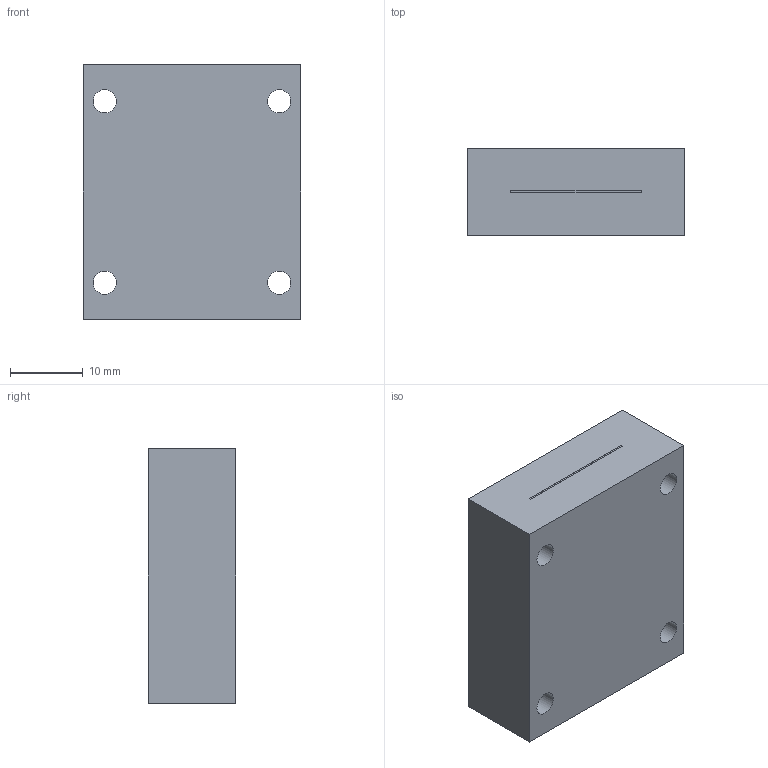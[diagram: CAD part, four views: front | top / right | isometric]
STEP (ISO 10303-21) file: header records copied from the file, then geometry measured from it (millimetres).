
FILE_DESCRIPTION(/* description */ ('LWL Typ-Q3-(18x0.3)'),/* implementation_level */ '2;1');
FILE_NAME(/* name */ 'T:\E-Mail-Zeichnungen\STEP\HOMEPAGE\LWL_Typ-Q3_18x0.3.stp',/* time_stamp */ '2015-04-20T12:36:44+02:00',/* author */ ('simone.schrank'),/* organization */ (''),/* preprocessor_version */ 'ST-DEVELOPER v15.6',/* originating_system */ 'Autodesk Inventor 2015',/* authorisation */ '');
FILE_SCHEMA (('AUTOMOTIVE_DESIGN { 1 0 10303 214 3 1 1 }'));
Length unit declared in the file: millimetre
Products named in the file (1): LWL_Typ-Q3_18x0.3
Bounding box: 30 x 12 x 35 mm (x, y, z)
Volume: 12210.5 mm3; surface area: 4080.6 mm2
Topology: 1 solids, 1 shells, 17 faces, 43 edges, 30 vertices
Faces by surface type: plane 12, cylinder 5
Full cylindrical faces by diameter (mm): 3.2 x4, 6.6 x1
Entity records: 517 total; most frequent: DIRECTION 80, CARTESIAN_POINT 78, ORIENTED_EDGE 68, EDGE_CURVE 34, EDGE_LOOP 32, AXIS2_PLACEMENT_3D 28, VERTEX_POINT 26, LINE 24
